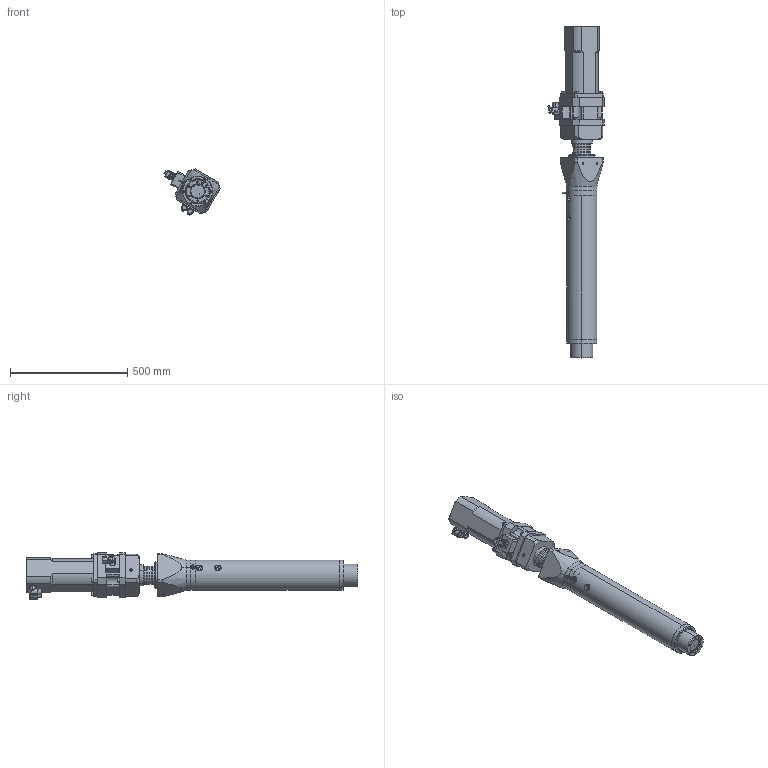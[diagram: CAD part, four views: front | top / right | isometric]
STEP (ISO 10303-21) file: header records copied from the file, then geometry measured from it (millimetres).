
FILE_DESCRIPTION (( 'STEP AP203' ), '1' );
FILE_NAME ('MLN5I0300-035-025SG0.STEP', '2014-11-13T14:33:18', ( 'Holtz' ), ( '' ), 'SwSTEP 2.0', 'SolidWorks 2013', '' );
FILE_SCHEMA (( 'CONFIG_CONTROL_DESIGN' ));
Length unit declared in the file: millimetre
Products named in the file (1): MLN5I0300-035-025SG0
Bounding box: 239.81 x 1417.5 x 196.66 mm (x, y, z)
Volume: 16455546.4 mm3; surface area: 1518346.5 mm2
Topology: 28 solids, 28 shells, 1262 faces, 2985 edges, 1799 vertices
Faces by surface type: cylinder 510, plane 472, cone 206, torus 68, bspline 4, sphere 2
Entity records: 37482 total; most frequent: CARTESIAN_POINT 8107, DIRECTION 6529, ORIENTED_EDGE 5698, EDGE_CURVE 2849, AXIS2_PLACEMENT_3D 2517, VERTEX_POINT 1799, VECTOR 1495, LINE 1495
